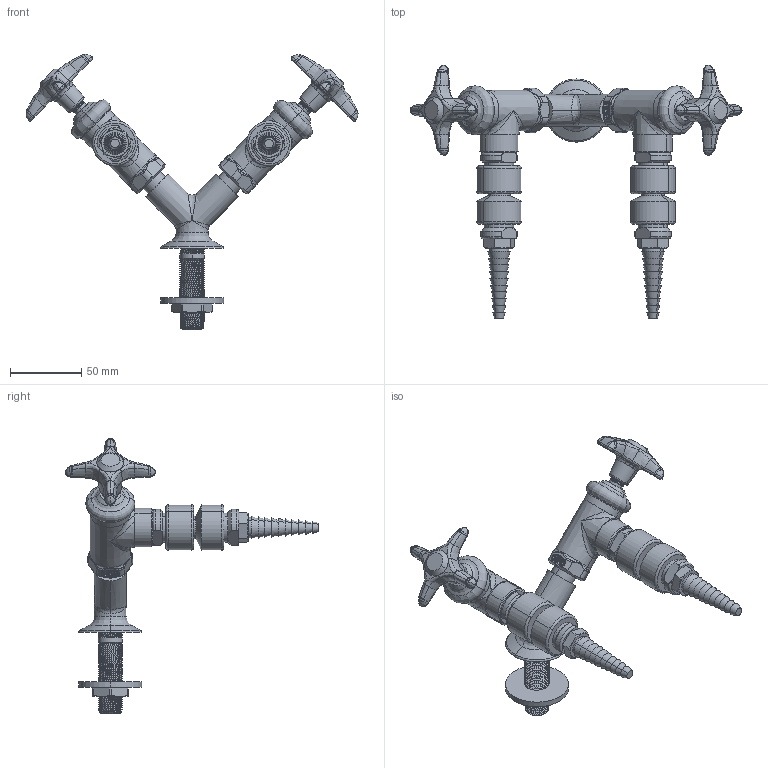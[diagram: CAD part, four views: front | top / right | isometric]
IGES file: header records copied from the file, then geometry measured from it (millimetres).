
Start section:  PTC IGES file: LWV2-C43-65.igs
Global section: file name: LWV2-C43-65.igs; native system: Creo Parametric by PTC Inc.; preprocessor: 2014500; author: usch_engrender; organization: Unknown; date: 20151124.091322; units: inch
Bounding box: 233.61 x 178.42 x 193.73 mm (x, y, z)
Volume: 285375.7 mm3; surface area: 67394.3 mm2
Topology: 1 solids, 6 shells, 1115 faces, 2594 edges, 1545 vertices
Faces by surface type: bspline 593, revolution 522
